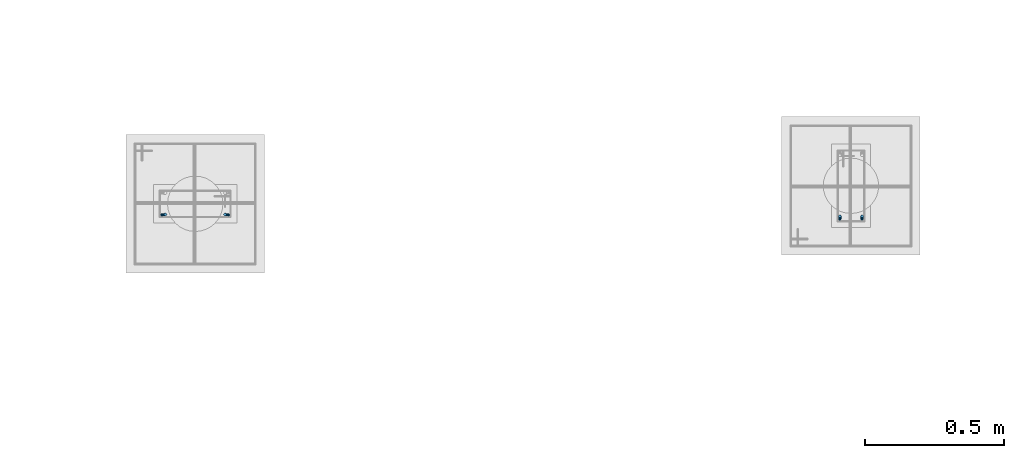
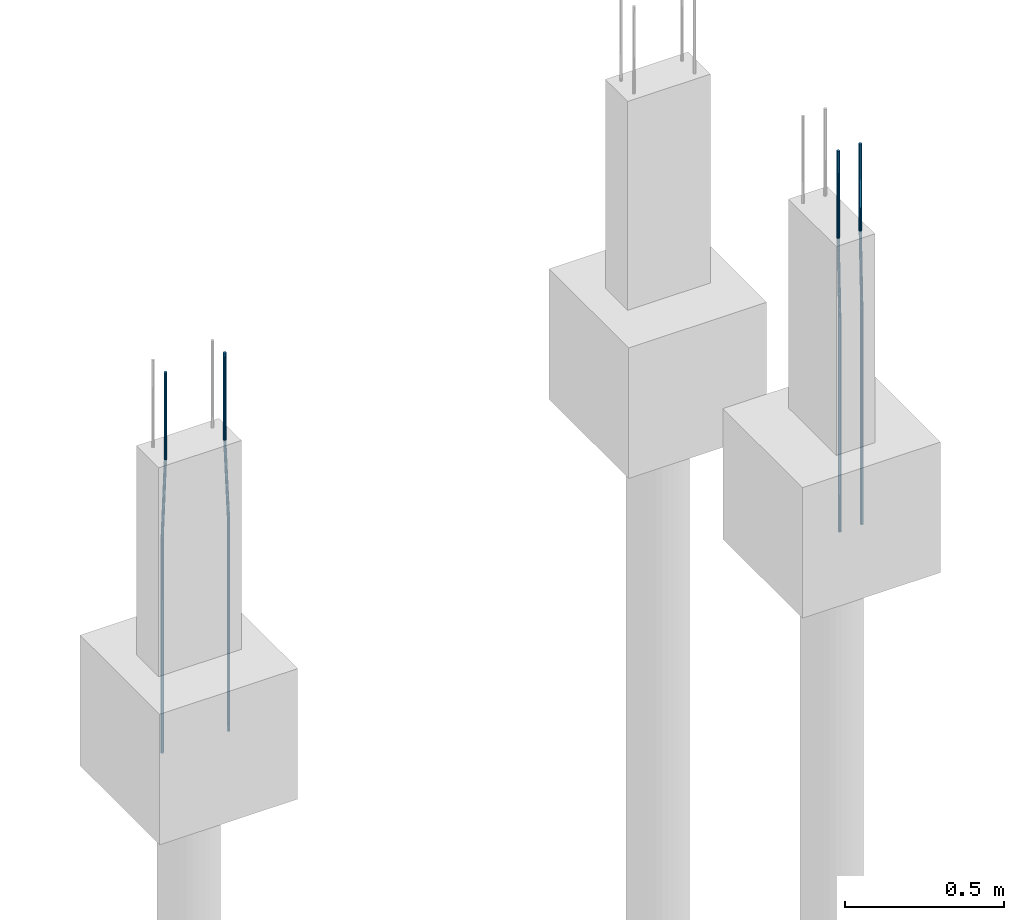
# One storey, part 47 of 119: 4 reinforcing bars.
"""IFC4 building model written with IfcOpenShell, lengths in centimetres."""

from ifc_helpers import new_model, entity, si_unit, derived_unit, frame, origin_with_axes, place, context, project, spatial, element, save


model = new_model("IFC4")

# Units and contexts
model_context = context("Model", 3, precision=1e-05, world=origin_with_axes(), identifier="Body")
ifc_project = project(units=[si_unit("LENGTHUNIT", "METRE", prefix="CENTI"), si_unit("VOLUMEUNIT", "CUBIC_METRE"), si_unit("AREAUNIT", "SQUARE_METRE"), si_unit("POWERUNIT", "WATT"), si_unit("LUMINOUSFLUXUNIT", "LUMEN"), si_unit("ELECTRICCURRENTUNIT", "AMPERE"), si_unit("PRESSUREUNIT", "PASCAL", prefix="KILO"), si_unit("MASSUNIT", "GRAM", prefix="KILO"), si_unit("PLANEANGLEUNIT", "RADIAN"), derived_unit("VOLUMETRICFLOWRATEUNIT", [(si_unit("LENGTHUNIT", "METRE"), 3), (si_unit("TIMEUNIT", "SECOND"), -1)])], contexts=[model_context])

# Site, building, storey
site_placement = place(None, frame((-4000.0, 0.0, 0.0), z_axis=(0.0, 0.0, 1.0), x_axis=(1.0, 0.0, 0.0)))
site = spatial("IfcSite", under=ifc_project, at=site_placement, Name="PADRÃO")
building_placement = place(site_placement, frame((0.0, 0.0, -14.0)))
building = spatial("IfcBuilding", under=site, at=building_placement, Name="CRECHE PRÉ-ESCOLA TIPO 2")
storey_placement = place(building_placement, origin_with_axes())
storey = spatial("IfcBuildingStorey", under=building, at=storey_placement, Name="FUNDAÇÃO", CompositionType="ELEMENT", Elevation=-14.0)

# Reinforcing bars
reinforcing_bar_1_placement = place(storey_placement, frame((278.375, 3981.0625, 33.3573001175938), z_axis=(0.0, 0.0, 1.0), x_axis=(1.0, 0.0, 0.0)))
element("IfcReinforcingBar", 1, at=reinforcing_bar_1_placement, inside=storey, Name="P23 - Longitudinal", BarLength=0.0, CrossSectionArea=7.853981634e-05, NominalDiameter=1.0, PredefinedType="MAIN", context=model_context, shape_type="AdvancedSweptSolid", body=[
    entity("IfcSweptDiskSolid", entity("IfcCompositeCurve", [entity("IfcCompositeCurveSegment", "CONTINUOUS", True, entity("IfcPolyline", [entity("IfcCartesianPoint", [0.625, -0.0625, -145.357300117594]), entity("IfcCartesianPoint", [0.625, -0.0625, -63.3573001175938])])), entity("IfcCompositeCurveSegment", "CONTINUOUS", True, entity("IfcPolyline", [entity("IfcCartesianPoint", [0.625, -0.0625, -63.3573001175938]), entity("IfcCartesianPoint", [-0.625, 0.0625, -33.3573001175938])])), entity("IfcCompositeCurveSegment", "CONTINUOUS", True, entity("IfcPolyline", [entity("IfcCartesianPoint", [-0.625, 0.0625, -33.3573001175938]), entity("IfcCartesianPoint", [-0.625, 0.0625, 0.0])]))], False), 0.5),
])
reinforcing_bar_2_placement = place(storey_placement, frame((255.625, 3981.0625, 33.3573001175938), z_axis=(0.0, 0.0, 1.0), x_axis=(1.0, 0.0, 0.0)))
element("IfcReinforcingBar", 2, at=reinforcing_bar_2_placement, inside=storey, Name="P23 - Longitudinal", BarLength=0.0, CrossSectionArea=7.853981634e-05, NominalDiameter=1.0, PredefinedType="MAIN", context=model_context, shape_type="AdvancedSweptSolid", body=[
    entity("IfcSweptDiskSolid", entity("IfcCompositeCurve", [entity("IfcCompositeCurveSegment", "CONTINUOUS", True, entity("IfcPolyline", [entity("IfcCartesianPoint", [-0.625, -0.0625, -145.357300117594]), entity("IfcCartesianPoint", [-0.625, -0.0625, -63.3573001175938])])), entity("IfcCompositeCurveSegment", "CONTINUOUS", True, entity("IfcPolyline", [entity("IfcCartesianPoint", [-0.625, -0.0625, -63.3573001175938]), entity("IfcCartesianPoint", [0.625, 0.0625, -33.3573001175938])])), entity("IfcCompositeCurveSegment", "CONTINUOUS", True, entity("IfcPolyline", [entity("IfcCartesianPoint", [0.625, 0.0625, -33.3573001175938]), entity("IfcCartesianPoint", [0.625, 0.0625, 0.0])]))], False), 0.5),
])
for number, where, z_axis, x_axis, name in (
    (3, (499.67, 3980.0, 33.3573001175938), (0.0, 0.0, 1.0), (1.0, 0.0, 0.0), "P24 - Longitudinal"),
    (4, (507.67, 3980.0, 33.3573001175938), (0.0, 0.0, 1.0), (1.0, 0.0, 0.0), "P24 - Longitudinal"),
):
    element("IfcReinforcingBar", number, at=place(storey_placement, frame(where, z_axis=z_axis, x_axis=x_axis)), inside=storey, Name=name, BarLength=0.0, CrossSectionArea=7.853981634e-05, NominalDiameter=1.0, PredefinedType="MAIN", context=model_context, shape_type="AdvancedSweptSolid", body=[
        entity("IfcSweptDiskSolid", entity("IfcCompositeCurve", [entity("IfcCompositeCurveSegment", "CONTINUOUS", True, entity("IfcPolyline", [entity("IfcCartesianPoint", [0.0, -0.5, -145.357300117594]), entity("IfcCartesianPoint", [0.0, -0.5, -63.3573001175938])])), entity("IfcCompositeCurveSegment", "CONTINUOUS", True, entity("IfcPolyline", [entity("IfcCartesianPoint", [0.0, -0.5, -63.3573001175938]), entity("IfcCartesianPoint", [0.0, 0.5, -33.3573001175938])])), entity("IfcCompositeCurveSegment", "CONTINUOUS", True, entity("IfcPolyline", [entity("IfcCartesianPoint", [0.0, 0.5, -33.3573001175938]), entity("IfcCartesianPoint", [0.0, 0.5, 0.0])]))], False), 0.5),
    ])

save(model, "model.ifc")
